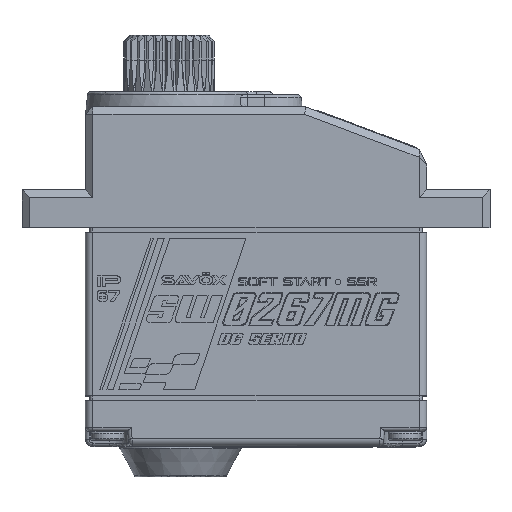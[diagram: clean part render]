
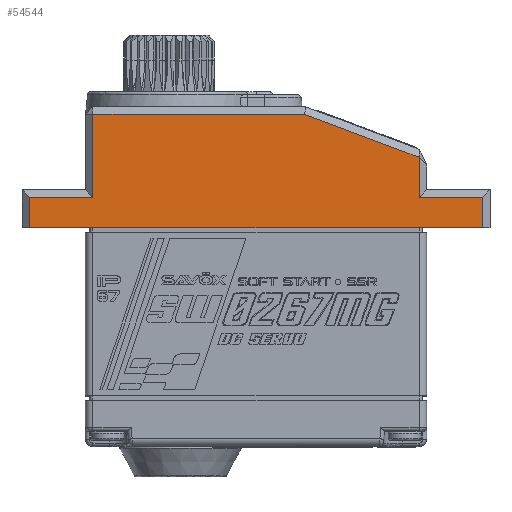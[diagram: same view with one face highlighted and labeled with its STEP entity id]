
A CAD part, top view. The second image highlights one B-rep face of the part: STEP entity #54544.
In plain terms, the highlighted planar face has unit normal (0, 0, 1).
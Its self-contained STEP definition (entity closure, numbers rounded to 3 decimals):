
#1937 = VECTOR ( 'NONE', #47346, 1000. ) ;
#5842 = VERTEX_POINT ( 'NONE', #63435 ) ;
#6123 = CARTESIAN_POINT ( 'NONE',  ( -9.25, 0., 6.3 ) ) ;
#6330 = CARTESIAN_POINT ( 'NONE',  ( 8.959, 7.5, 6.3 ) ) ;
#6866 = EDGE_CURVE ( 'NONE', #53856, #43742, #39948, .T. ) ;
#6931 = CARTESIAN_POINT ( 'NONE',  ( -9.25, 0., 6.3 ) ) ;
#8426 = DIRECTION ( 'NONE',  ( 0., -1., 0. ) ) ;
#8506 = DIRECTION ( 'NONE',  ( 1., 0., 0. ) ) ;
#9761 = VECTOR ( 'NONE', #24010, 1000. ) ;
#11511 = DIRECTION ( 'NONE',  ( 0.936, -0.351, 0. ) ) ;
#13227 = EDGE_CURVE ( 'NONE', #28445, #32193, #44755, .T. ) ;
#13451 = CARTESIAN_POINT ( 'NONE',  ( -5.05, 2., 6.3 ) ) ;
#13693 = LINE ( 'NONE', #55592, #58273 ) ;
#14865 = VECTOR ( 'NONE', #8426, 1000. ) ;
#17012 = DIRECTION ( 'NONE',  ( -1., 0., 0. ) ) ;
#17353 = PLANE ( 'NONE',  #18176 ) ;
#17581 = ORIENTED_EDGE ( 'NONE', *, *, #28928, .F. ) ;
#18176 = AXIS2_PLACEMENT_3D ( 'NONE', #54085, #22159, #17012 ) ;
#21271 = LINE ( 'NONE', #6123, #1937 ) ;
#22159 = DIRECTION ( 'NONE',  ( 0., 0., -1. ) ) ;
#22225 = EDGE_CURVE ( 'NONE', #31290, #50712, #38584, .T. ) ;
#24010 = DIRECTION ( 'NONE',  ( 1., 0., 0. ) ) ;
#25276 = EDGE_CURVE ( 'NONE', #52433, #5842, #65194, .T. ) ;
#25604 = CARTESIAN_POINT ( 'NONE',  ( 20.75, 0., 6.3 ) ) ;
#26633 = EDGE_CURVE ( 'NONE', #66263, #28445, #13693, .T. ) ;
#27381 = ORIENTED_EDGE ( 'NONE', *, *, #6866, .T. ) ;
#28445 = VERTEX_POINT ( 'NONE', #13451 ) ;
#28748 = CARTESIAN_POINT ( 'NONE',  ( 16.55, 4.653, 6.3 ) ) ;
#28928 = EDGE_CURVE ( 'NONE', #50712, #52433, #63485, .T. ) ;
#31290 = VERTEX_POINT ( 'NONE', #55293 ) ;
#31738 = ORIENTED_EDGE ( 'NONE', *, *, #26633, .F. ) ;
#32193 = VERTEX_POINT ( 'NONE', #51890 ) ;
#32277 = ORIENTED_EDGE ( 'NONE', *, *, #13227, .F. ) ;
#34781 = VECTOR ( 'NONE', #11511, 1000. ) ;
#34893 = LINE ( 'NONE', #50671, #14865 ) ;
#36404 = EDGE_CURVE ( 'NONE', #5842, #43742, #34893, .T. ) ;
#37336 = DIRECTION ( 'NONE',  ( 0., -1., 0. ) ) ;
#38584 = LINE ( 'NONE', #6330, #34781 ) ;
#39948 = LINE ( 'NONE', #66404, #62751 ) ;
#41158 = EDGE_CURVE ( 'NONE', #53856, #66263, #21271, .T. ) ;
#42521 = CARTESIAN_POINT ( 'NONE',  ( 16.55, 0., 6.3 ) ) ;
#43107 = DIRECTION ( 'NONE',  ( 1., 0., 0. ) ) ;
#43742 = VERTEX_POINT ( 'NONE', #25604 ) ;
#43773 = CARTESIAN_POINT ( 'NONE',  ( 5.75, 7.5, 6.3 ) ) ;
#44755 = LINE ( 'NONE', #66370, #48873 ) ;
#45877 = CARTESIAN_POINT ( 'NONE',  ( 16.55, 2., 6.3 ) ) ;
#46890 = EDGE_CURVE ( 'NONE', #32193, #31290, #48565, .T. ) ;
#47346 = DIRECTION ( 'NONE',  ( 0., 1., 0. ) ) ;
#47541 = EDGE_LOOP ( 'NONE', ( #67239, #27381, #53075, #59306, #17581, #57205, #51599, #32277, #31738 ) ) ;
#48565 = LINE ( 'NONE', #43773, #49861 ) ;
#48873 = VECTOR ( 'NONE', #60222, 1000. ) ;
#49765 = VECTOR ( 'NONE', #37336, 1000. ) ;
#49861 = VECTOR ( 'NONE', #43107, 1000. ) ;
#50671 = CARTESIAN_POINT ( 'NONE',  ( 20.75, 0., 6.3 ) ) ;
#50712 = VERTEX_POINT ( 'NONE', #28748 ) ;
#51599 = ORIENTED_EDGE ( 'NONE', *, *, #46890, .F. ) ;
#51890 = CARTESIAN_POINT ( 'NONE',  ( -5.05, 7.5, 6.3 ) ) ;
#52433 = VERTEX_POINT ( 'NONE', #45877 ) ;
#53075 = ORIENTED_EDGE ( 'NONE', *, *, #36404, .F. ) ;
#53856 = VERTEX_POINT ( 'NONE', #6931 ) ;
#54085 = CARTESIAN_POINT ( 'NONE',  ( 5.75, 0., 6.3 ) ) ;
#54405 = CARTESIAN_POINT ( 'NONE',  ( -9.25, 2., 6.3 ) ) ;
#54544 = ADVANCED_FACE ( 'NONE', ( #63726 ), #17353, .F. ) ;
#55293 = CARTESIAN_POINT ( 'NONE',  ( 8.959, 7.5, 6.3 ) ) ;
#55592 = CARTESIAN_POINT ( 'NONE',  ( 5.75, 2., 6.3 ) ) ;
#57205 = ORIENTED_EDGE ( 'NONE', *, *, #22225, .F. ) ;
#58273 = VECTOR ( 'NONE', #8506, 1000. ) ;
#59306 = ORIENTED_EDGE ( 'NONE', *, *, #25276, .F. ) ;
#60222 = DIRECTION ( 'NONE',  ( 0., 1., 0. ) ) ;
#60961 = DIRECTION ( 'NONE',  ( 1., 0., 0. ) ) ;
#62751 = VECTOR ( 'NONE', #60961, 1000. ) ;
#63435 = CARTESIAN_POINT ( 'NONE',  ( 20.75, 2., 6.3 ) ) ;
#63485 = LINE ( 'NONE', #42521, #49765 ) ;
#63726 = FACE_OUTER_BOUND ( 'NONE', #47541, .T. ) ;
#64515 = CARTESIAN_POINT ( 'NONE',  ( 5.75, 2., 6.3 ) ) ;
#65194 = LINE ( 'NONE', #64515, #9761 ) ;
#66263 = VERTEX_POINT ( 'NONE', #54405 ) ;
#66370 = CARTESIAN_POINT ( 'NONE',  ( -5.05, 0., 6.3 ) ) ;
#66404 = CARTESIAN_POINT ( 'NONE',  ( 21.25, 0., 6.3 ) ) ;
#67239 = ORIENTED_EDGE ( 'NONE', *, *, #41158, .F. ) ;
